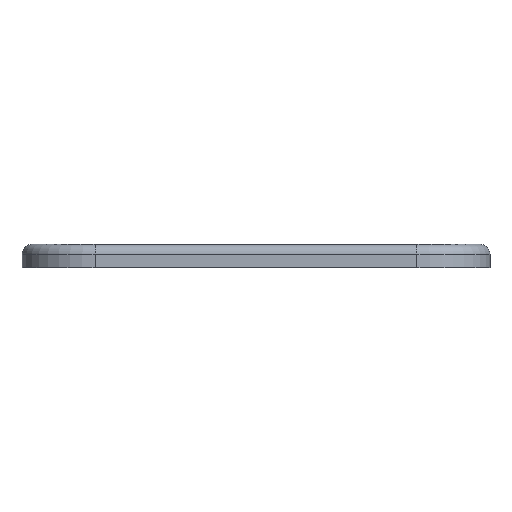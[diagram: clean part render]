
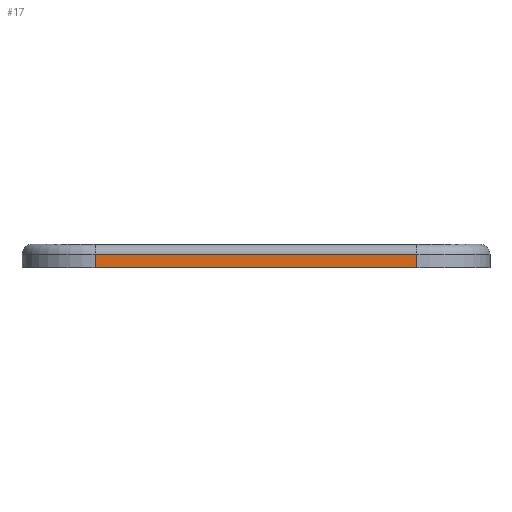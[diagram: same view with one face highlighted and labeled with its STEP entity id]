
A CAD part, left-side view. The second image highlights one B-rep face of the part: STEP entity #17.
In plain terms, the highlighted planar face has unit normal (-1, 0, 0).
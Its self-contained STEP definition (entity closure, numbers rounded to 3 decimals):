
#17 = ADVANCED_FACE('',(#18),#32,.F.);
#18 = FACE_BOUND('',#19,.F.);
#19 = EDGE_LOOP('',(#20,#55,#83,#111));
#20 = ORIENTED_EDGE('',*,*,#21,.F.);
#21 = EDGE_CURVE('',#22,#24,#26,.T.);
#22 = VERTEX_POINT('',#23);
#23 = CARTESIAN_POINT('',(-21.,-11.,0.));
#24 = VERTEX_POINT('',#25);
#25 = CARTESIAN_POINT('',(-21.,-11.,0.9));
#26 = SURFACE_CURVE('',#27,(#31,#43),.PCURVE_S1.);
#27 = LINE('',#28,#29);
#28 = CARTESIAN_POINT('',(-21.,-11.,0.));
#29 = VECTOR('',#30,1.);
#30 = DIRECTION('',(0.,0.,1.));
#31 = PCURVE('',#32,#37);
#32 = PLANE('',#33);
#33 = AXIS2_PLACEMENT_3D('',#34,#35,#36);
#34 = CARTESIAN_POINT('',(-21.,-16.,0.));
#35 = DIRECTION('',(1.,0.,0.));
#36 = DIRECTION('',(0.,0.,1.));
#37 = DEFINITIONAL_REPRESENTATION('',(#38),#42);
#38 = LINE('',#39,#40);
#39 = CARTESIAN_POINT('',(0.,-5.));
#40 = VECTOR('',#41,1.);
#41 = DIRECTION('',(1.,0.));
#42 = ( GEOMETRIC_REPRESENTATION_CONTEXT(2) 
PARAMETRIC_REPRESENTATION_CONTEXT() REPRESENTATION_CONTEXT('2D SPACE',''
  ) );
#43 = PCURVE('',#44,#49);
#44 = CYLINDRICAL_SURFACE('',#45,5.);
#45 = AXIS2_PLACEMENT_3D('',#46,#47,#48);
#46 = CARTESIAN_POINT('',(-16.,-11.,0.));
#47 = DIRECTION('',(0.,0.,1.));
#48 = DIRECTION('',(-1.,-0.,0.));
#49 = DEFINITIONAL_REPRESENTATION('',(#50),#54);
#50 = LINE('',#51,#52);
#51 = CARTESIAN_POINT('',(0.,0.));
#52 = VECTOR('',#53,1.);
#53 = DIRECTION('',(0.,1.));
#54 = ( GEOMETRIC_REPRESENTATION_CONTEXT(2) 
PARAMETRIC_REPRESENTATION_CONTEXT() REPRESENTATION_CONTEXT('2D SPACE',''
  ) );
#55 = ORIENTED_EDGE('',*,*,#56,.T.);
#56 = EDGE_CURVE('',#22,#57,#59,.T.);
#57 = VERTEX_POINT('',#58);
#58 = CARTESIAN_POINT('',(-21.,11.,0.));
#59 = SURFACE_CURVE('',#60,(#64,#71),.PCURVE_S1.);
#60 = LINE('',#61,#62);
#61 = CARTESIAN_POINT('',(-21.,-16.,0.));
#62 = VECTOR('',#63,1.);
#63 = DIRECTION('',(0.,1.,0.));
#64 = PCURVE('',#32,#65);
#65 = DEFINITIONAL_REPRESENTATION('',(#66),#70);
#66 = LINE('',#67,#68);
#67 = CARTESIAN_POINT('',(0.,0.));
#68 = VECTOR('',#69,1.);
#69 = DIRECTION('',(0.,-1.));
#70 = ( GEOMETRIC_REPRESENTATION_CONTEXT(2) 
PARAMETRIC_REPRESENTATION_CONTEXT() REPRESENTATION_CONTEXT('2D SPACE',''
  ) );
#71 = PCURVE('',#72,#77);
#72 = PLANE('',#73);
#73 = AXIS2_PLACEMENT_3D('',#74,#75,#76);
#74 = CARTESIAN_POINT('',(-21.,-16.,0.));
#75 = DIRECTION('',(0.,0.,1.));
#76 = DIRECTION('',(1.,0.,0.));
#77 = DEFINITIONAL_REPRESENTATION('',(#78),#82);
#78 = LINE('',#79,#80);
#79 = CARTESIAN_POINT('',(0.,0.));
#80 = VECTOR('',#81,1.);
#81 = DIRECTION('',(0.,1.));
#82 = ( GEOMETRIC_REPRESENTATION_CONTEXT(2) 
PARAMETRIC_REPRESENTATION_CONTEXT() REPRESENTATION_CONTEXT('2D SPACE',''
  ) );
#83 = ORIENTED_EDGE('',*,*,#84,.T.);
#84 = EDGE_CURVE('',#57,#85,#87,.T.);
#85 = VERTEX_POINT('',#86);
#86 = CARTESIAN_POINT('',(-21.,11.,0.9));
#87 = SURFACE_CURVE('',#88,(#92,#99),.PCURVE_S1.);
#88 = LINE('',#89,#90);
#89 = CARTESIAN_POINT('',(-21.,11.,0.));
#90 = VECTOR('',#91,1.);
#91 = DIRECTION('',(0.,0.,1.));
#92 = PCURVE('',#32,#93);
#93 = DEFINITIONAL_REPRESENTATION('',(#94),#98);
#94 = LINE('',#95,#96);
#95 = CARTESIAN_POINT('',(0.,-27.));
#96 = VECTOR('',#97,1.);
#97 = DIRECTION('',(1.,0.));
#98 = ( GEOMETRIC_REPRESENTATION_CONTEXT(2) 
PARAMETRIC_REPRESENTATION_CONTEXT() REPRESENTATION_CONTEXT('2D SPACE',''
  ) );
#99 = PCURVE('',#100,#105);
#100 = CYLINDRICAL_SURFACE('',#101,5.);
#101 = AXIS2_PLACEMENT_3D('',#102,#103,#104);
#102 = CARTESIAN_POINT('',(-16.,11.,0.));
#103 = DIRECTION('',(0.,0.,1.));
#104 = DIRECTION('',(-1.,-0.,0.));
#105 = DEFINITIONAL_REPRESENTATION('',(#106),#110);
#106 = LINE('',#107,#108);
#107 = CARTESIAN_POINT('',(-0.,0.));
#108 = VECTOR('',#109,1.);
#109 = DIRECTION('',(-0.,1.));
#110 = ( GEOMETRIC_REPRESENTATION_CONTEXT(2) 
PARAMETRIC_REPRESENTATION_CONTEXT() REPRESENTATION_CONTEXT('2D SPACE',''
  ) );
#111 = ORIENTED_EDGE('',*,*,#112,.F.);
#112 = EDGE_CURVE('',#24,#85,#113,.T.);
#113 = SURFACE_CURVE('',#114,(#118,#125),.PCURVE_S1.);
#114 = LINE('',#115,#116);
#115 = CARTESIAN_POINT('',(-21.,-11.,0.9));
#116 = VECTOR('',#117,1.);
#117 = DIRECTION('',(0.,1.,0.));
#118 = PCURVE('',#32,#119);
#119 = DEFINITIONAL_REPRESENTATION('',(#120),#124);
#120 = LINE('',#121,#122);
#121 = CARTESIAN_POINT('',(0.9,-5.));
#122 = VECTOR('',#123,1.);
#123 = DIRECTION('',(0.,-1.));
#124 = ( GEOMETRIC_REPRESENTATION_CONTEXT(2) 
PARAMETRIC_REPRESENTATION_CONTEXT() REPRESENTATION_CONTEXT('2D SPACE',''
  ) );
#125 = PCURVE('',#126,#131);
#126 = CYLINDRICAL_SURFACE('',#127,0.7);
#127 = AXIS2_PLACEMENT_3D('',#128,#129,#130);
#128 = CARTESIAN_POINT('',(-20.3,-11.,0.9));
#129 = DIRECTION('',(0.,1.,0.));
#130 = DIRECTION('',(-1.,0.,0.));
#131 = DEFINITIONAL_REPRESENTATION('',(#132),#136);
#132 = LINE('',#133,#134);
#133 = CARTESIAN_POINT('',(0.,0.));
#134 = VECTOR('',#135,1.);
#135 = DIRECTION('',(0.,1.));
#136 = ( GEOMETRIC_REPRESENTATION_CONTEXT(2) 
PARAMETRIC_REPRESENTATION_CONTEXT() REPRESENTATION_CONTEXT('2D SPACE',''
  ) );
